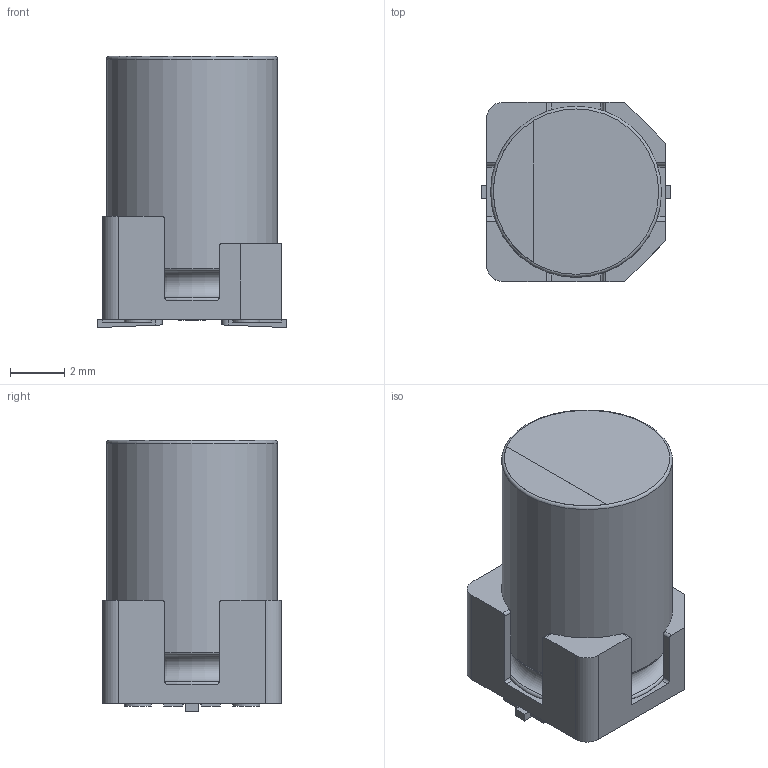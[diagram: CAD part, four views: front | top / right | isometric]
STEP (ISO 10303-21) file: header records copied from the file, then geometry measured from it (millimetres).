
FILE_DESCRIPTION(/* description */ (''),/* implementation_level */ '2;1');
FILE_NAME(/* name */ 'φ6.3x10L_耐振品.stp',/* time_stamp */ '2019-04-25T16:39:20+09:00',/* author */ (''),/* organization */ (''),/* preprocessor_version */ 'ST-DEVELOPER v16.7',/* originating_system */ 'SIEMENS PLM Software NX 1851',/* authorisation */ '');
FILE_SCHEMA (('AUTOMOTIVE_DESIGN { 1 0 10303 214 3 1 1 1 }'));
Length unit declared in the file: millimetre
Products named in the file (1): 6.3
Bounding box: 7 x 6.6 x 10 mm (x, y, z)
Volume: 326.2 mm3; surface area: 456.6 mm2
Topology: 9 solids, 9 shells, 102 faces, 235 edges, 156 vertices
Faces by surface type: plane 64, cylinder 34, torus 4
Full cylindrical faces by diameter (mm): 1 x5, 6.3 x2
Entity records: 3168 total; most frequent: CARTESIAN_POINT 717, DIRECTION 466, ORIENTED_EDGE 442, EDGE_CURVE 221, AXIS2_PLACEMENT_3D 158, VERTEX_POINT 153, LINE 150, VECTOR 150
